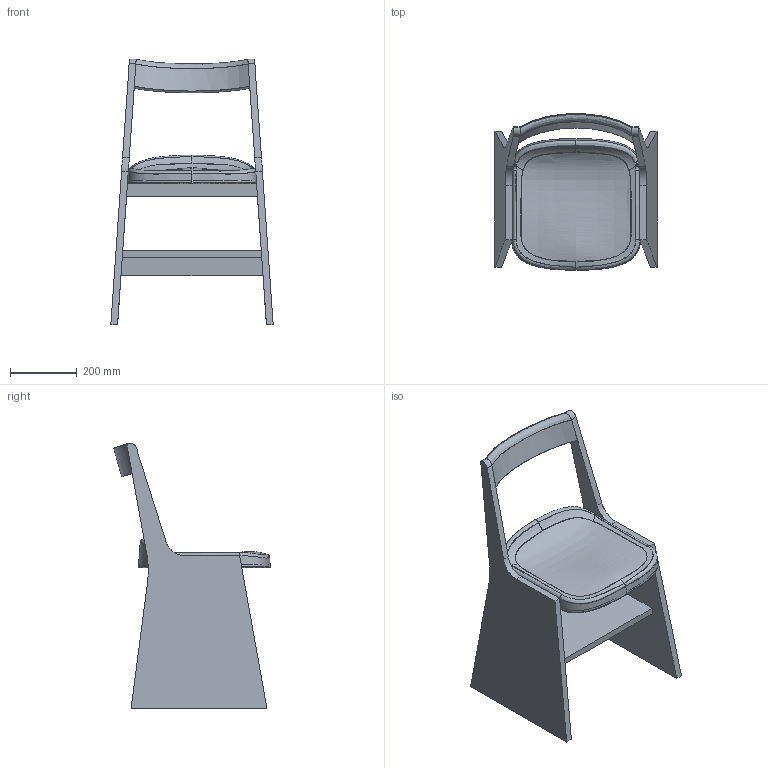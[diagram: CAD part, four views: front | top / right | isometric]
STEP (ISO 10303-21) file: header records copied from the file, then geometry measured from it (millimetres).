
FILE_DESCRIPTION(/* description */ (''),/* implementation_level */ '2;1');
FILE_NAME(/* name */ 'MC19_F~1',/* time_stamp */ '2021-04-14T13:44:29+02:00',/* author */ (''),/* organization */ (''),/* preprocessor_version */ 'ST-DEVELOPER v16.5',/* originating_system */ '',/* authorisation */ '');
FILE_SCHEMA (('AUTOMOTIVE_DESIGN'));
Length unit declared in the file: millimetre
Products named in the file (1): Document
Bounding box: 486.3 x 468.75 x 794.83 mm (x, y, z)
Surface area: 1616070.6 mm2 (no closed solid volume)
Topology: 0 solids, 110 shells, 110 faces, 509 edges, 505 vertices
Faces by surface type: bspline 110
Entity records: 53612 total; most frequent: CARTESIAN_POINT 48905, B_SPLINE_CURVE_WITH_KNOTS 887, ORIENTED_EDGE 513, PCURVE 513, DEFINITIONAL_REPRESENTATION 513, SURFACE_CURVE 509, EDGE_CURVE 509, VERTEX_POINT 505
